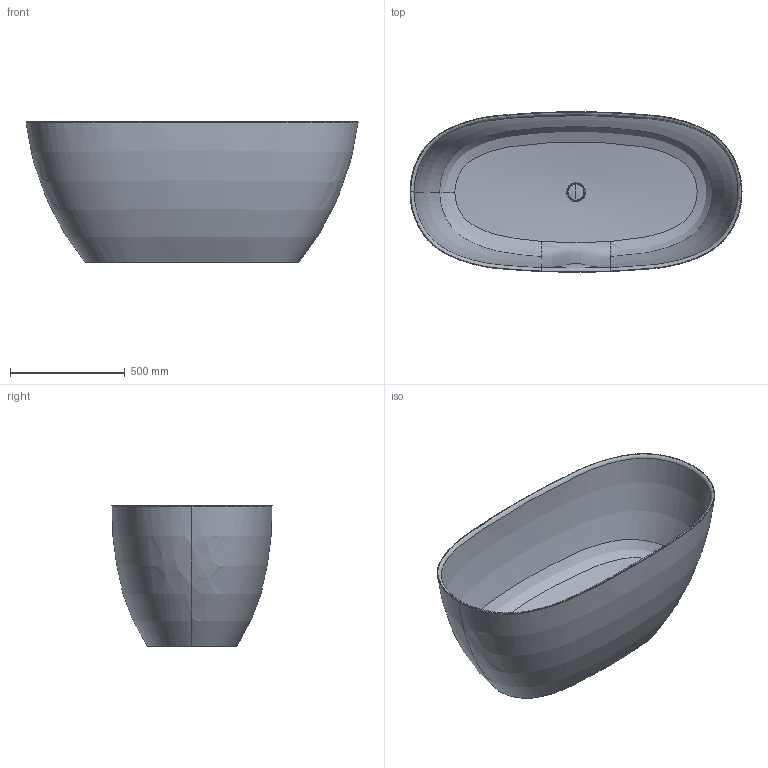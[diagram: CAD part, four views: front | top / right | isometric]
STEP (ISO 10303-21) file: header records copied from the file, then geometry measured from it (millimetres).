
FILE_DESCRIPTION(/* description */ (''),/* implementation_level */ '2;1');
FILE_NAME(/* name */ 'AP145V',/* time_stamp */ '2024-03-15T09:47:10+01:00',/* author */ (''),/* organization */ (''),/* preprocessor_version */ 'ST-DEVELOPER v16.5',/* originating_system */ 'Rhino 7.36',/* authorisation */ '');
FILE_SCHEMA (('CONFIG_CONTROL_DESIGN'));
Length unit declared in the file: millimetre
Products named in the file (1): Document
Bounding box: 1449.39 x 699.84 x 615.24 mm (x, y, z)
Surface area: 4906066.4 mm2
Topology: 1 solids, 2 shells, 75 faces, 184 edges, 107 vertices
Faces by surface type: bspline 62, plane 11, cylinder 2
Entity records: 122143 total; most frequent: CARTESIAN_POINT 121019, ORIENTED_EDGE 357, EDGE_CURVE 183, VERTEX_POINT 107, EDGE_LOOP 80, B_SPLINE_CURVE_WITH_KNOTS 80, ADVANCED_FACE 75, FACE_OUTER_BOUND 75
